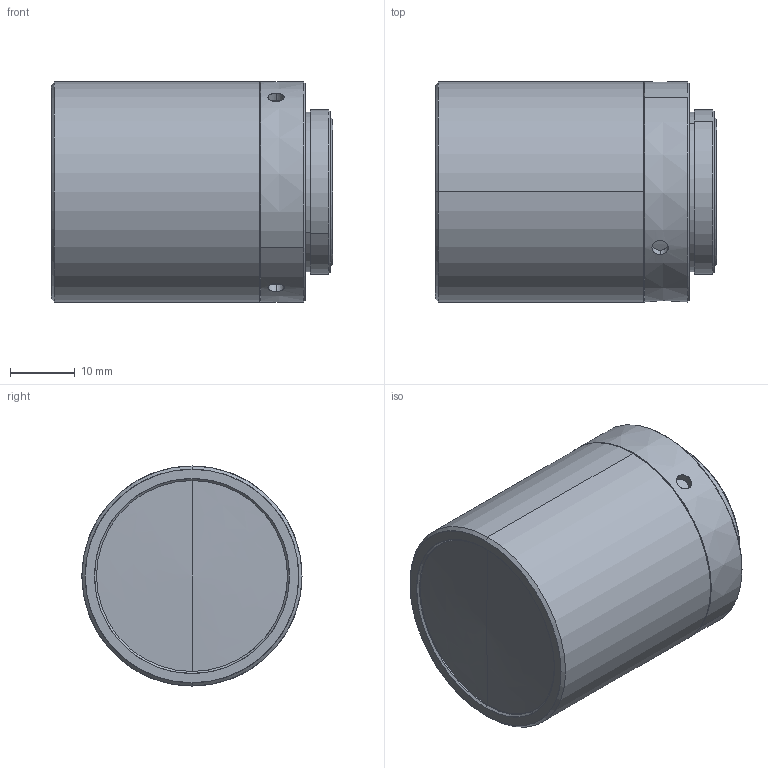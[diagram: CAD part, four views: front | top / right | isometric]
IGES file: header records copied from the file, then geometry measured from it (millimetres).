
Start section: SolidWorks IGES file using analytic representation for surfaces
Global section: file name: E:\图纸\镜头\WWT\WWT230-017-221S（118-35）\发客户3D\WWT230-017-221S.IGS; native system: SolidWorks 2017; preprocessor: SolidWorks 2017; author: gc; date: 230210.144355; units: millimetre
Bounding box: 43.5 x 34 x 34 mm (x, y, z)
Surface area: 6418.7 mm2 (no closed solid volume)
Topology: 0 solids, 0 shells, 47 faces, 972 edges, 968 vertices
Faces by surface type: revolution 41, bspline 6
